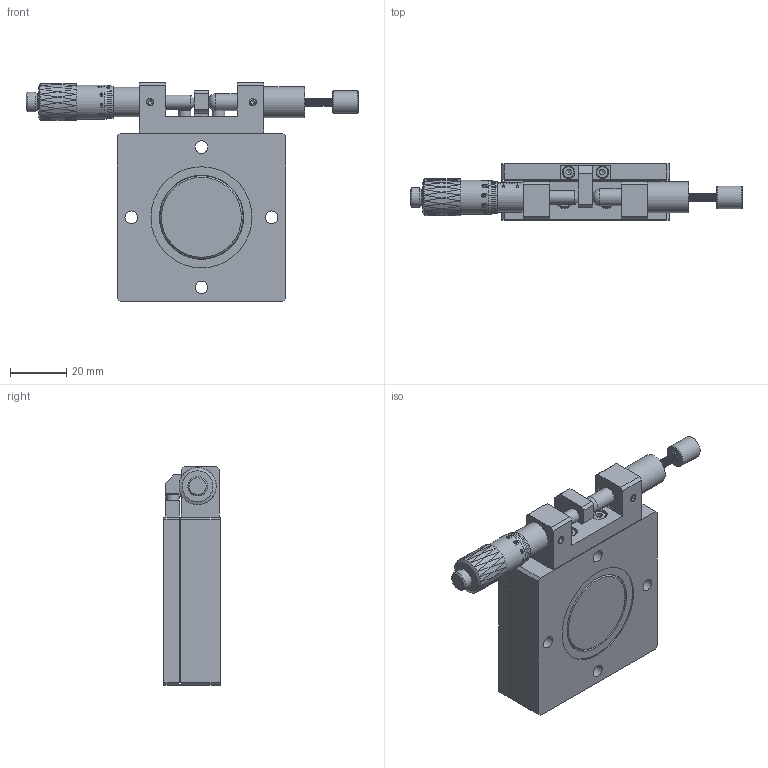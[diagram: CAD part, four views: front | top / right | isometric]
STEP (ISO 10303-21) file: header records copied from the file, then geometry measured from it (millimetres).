
FILE_DESCRIPTION (( 'STEP AP203' ), '1' );
FILE_NAME ('BFTR60.STEP', '2024-07-27T08:38:44', ( 'Windows User' ), ( 'P R C' ), 'SwSTEP 2.0', 'SolidWorks 2024', '' );
FILE_SCHEMA (( 'CONFIG_CONTROL_DESIGN' ));
Products named in the file (1): BFTR60
Bounding box: 118.25 x 20 x 78 mm (x, y, z)
Volume: 79104.8 mm3; surface area: 37162.4 mm2
Topology: 20 solids, 20 shells, 1065 faces, 2539 edges, 1648 vertices
Faces by surface type: bspline 396, plane 324, cylinder 202, cone 133, torus 9, sphere 1
Full cylindrical faces by diameter (mm): 2 x1, 2.05 x2, 2.5 x15, 2.9 x2, 3 x8, 3.3 x5, 3.4 x6, 4.5 x6, 5 x3, 5.2 x1, 5.5 x6, 6 x8, 7 x1, 8 x9, 8.5 x1, 9 x1, 9.5 x5, 10.5 x1, 11 x1, 12.2 x1, 19 x1, 19.8 x3, 29.5 x1, 30 x1, 36 x2, 41 x1
Entity records: 66387 total; most frequent: CARTESIAN_POINT 46119, ORIENTED_EDGE 4712, DIRECTION 2670, EDGE_CURVE 2356, VERTEX_POINT 1609, EDGE_LOOP 1407, B_SPLINE_CURVE_WITH_KNOTS 1351, FACE_OUTER_BOUND 1166
